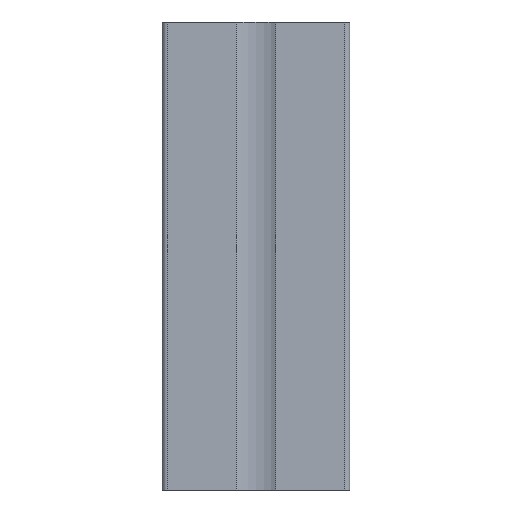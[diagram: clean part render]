
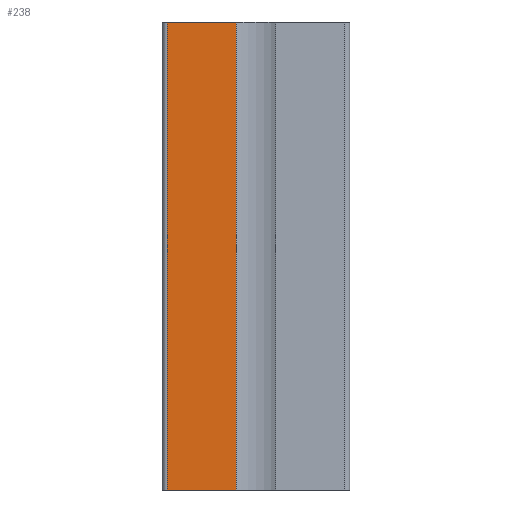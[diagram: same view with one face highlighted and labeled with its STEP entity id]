
A CAD part, left-side view. The second image highlights one B-rep face of the part: STEP entity #238.
In plain terms, the highlighted planar face has unit normal (-1, 0, 0).
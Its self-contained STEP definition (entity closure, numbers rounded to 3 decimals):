
#238 = ADVANCED_FACE ( 'NONE', ( #2110 ), #668, .F. ) ;
#396 = ORIENTED_EDGE ( 'NONE', *, *, #2422, .T. ) ;
#536 = EDGE_CURVE ( 'NONE', #2245, #1611, #1979, .T. ) ;
#545 = AXIS2_PLACEMENT_3D ( 'NONE', #3594, #3098, #872 ) ;
#560 = DIRECTION ( 'NONE',  ( 0., -1., 0. ) ) ;
#573 = LINE ( 'NONE', #3293, #3752 ) ;
#578 = LINE ( 'NONE', #3359, #3650 ) ;
#583 = VERTEX_POINT ( 'NONE', #1177 ) ;
#668 = PLANE ( 'NONE',  #545 ) ;
#810 = DIRECTION ( 'NONE',  ( 0., 0., -1. ) ) ;
#872 = DIRECTION ( 'NONE',  ( 0., 0., -1. ) ) ;
#1177 = CARTESIAN_POINT ( 'NONE',  ( -20., 19., -50. ) ) ;
#1267 = EDGE_CURVE ( 'NONE', #2092, #583, #2285, .T. ) ;
#1422 = ORIENTED_EDGE ( 'NONE', *, *, #1267, .T. ) ;
#1447 = DIRECTION ( 'NONE',  ( 0., -1., 0. ) ) ;
#1611 = VERTEX_POINT ( 'NONE', #1809 ) ;
#1748 = CARTESIAN_POINT ( 'NONE',  ( -20., 19., 50. ) ) ;
#1809 = CARTESIAN_POINT ( 'NONE',  ( -20., 4.2, -50. ) ) ;
#1979 = LINE ( 'NONE', #3189, #2795 ) ;
#2092 = VERTEX_POINT ( 'NONE', #3890 ) ;
#2110 = FACE_OUTER_BOUND ( 'NONE', #3804, .T. ) ;
#2245 = VERTEX_POINT ( 'NONE', #2782 ) ;
#2285 = LINE ( 'NONE', #1748, #3005 ) ;
#2422 = EDGE_CURVE ( 'NONE', #583, #1611, #573, .T. ) ;
#2782 = CARTESIAN_POINT ( 'NONE',  ( -20., 4.2, 50. ) ) ;
#2795 = VECTOR ( 'NONE', #2887, 1000. ) ;
#2887 = DIRECTION ( 'NONE',  ( 0., 0., -1. ) ) ;
#3005 = VECTOR ( 'NONE', #810, 1000. ) ;
#3098 = DIRECTION ( 'NONE',  ( 1., 0., 0. ) ) ;
#3189 = CARTESIAN_POINT ( 'NONE',  ( -20., 4.2, 50. ) ) ;
#3285 = EDGE_CURVE ( 'NONE', #2092, #2245, #578, .T. ) ;
#3293 = CARTESIAN_POINT ( 'NONE',  ( -20., 19., -50. ) ) ;
#3359 = CARTESIAN_POINT ( 'NONE',  ( -20., 19., 50. ) ) ;
#3382 = ORIENTED_EDGE ( 'NONE', *, *, #536, .F. ) ;
#3594 = CARTESIAN_POINT ( 'NONE',  ( -20., 19., 50. ) ) ;
#3650 = VECTOR ( 'NONE', #560, 1000. ) ;
#3658 = ORIENTED_EDGE ( 'NONE', *, *, #3285, .F. ) ;
#3752 = VECTOR ( 'NONE', #1447, 1000. ) ;
#3804 = EDGE_LOOP ( 'NONE', ( #396, #3382, #3658, #1422 ) ) ;
#3890 = CARTESIAN_POINT ( 'NONE',  ( -20., 19., 50. ) ) ;
